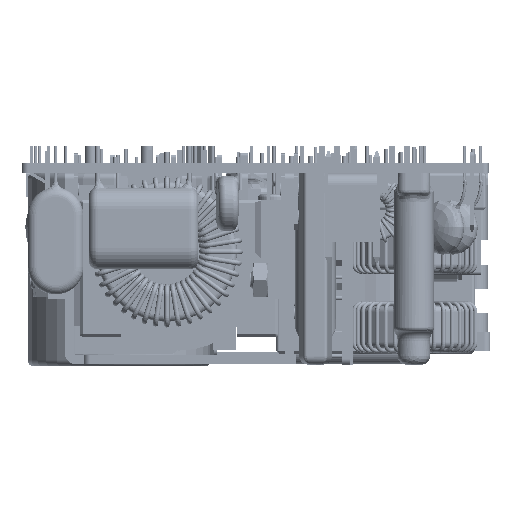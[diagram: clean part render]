
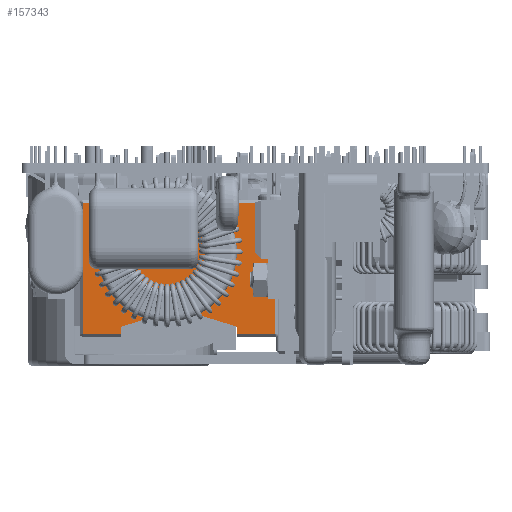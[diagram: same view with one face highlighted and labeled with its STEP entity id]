
A CAD part, left-side view. The second image highlights one B-rep face of the part: STEP entity #157343.
In plain terms, the highlighted planar face has unit normal (-1, 0, 0) as drawn and (0, 0, -1) by its records, which use the part's own axes.
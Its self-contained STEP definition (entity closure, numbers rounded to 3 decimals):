
#156380=DIRECTION('',(-1.,0.,0.));
#156381=VECTOR('',#156380,6.25);
#156382=CARTESIAN_POINT('',(-9.5,10.75,-14.2));
#156383=LINE('',#156382,#156381);
#156387=DIRECTION('',(0.,-1.,0.));
#156388=VECTOR('',#156387,21.5);
#156389=CARTESIAN_POINT('',(-15.75,10.75,-14.2));
#156390=LINE('',#156389,#156388);
#156394=DIRECTION('',(1.,0.,0.));
#156395=VECTOR('',#156394,6.25);
#156396=CARTESIAN_POINT('',(-15.75,-10.75,-14.2));
#156397=LINE('',#156396,#156395);
#156401=DIRECTION('',(0.955,0.296,0.));
#156402=VECTOR('',#156401,6.569);
#156403=CARTESIAN_POINT('',(-9.5,-9.592,-14.2));
#156404=LINE('',#156403,#156402);
#156408=DIRECTION('',(0.495,0.869,0.));
#156409=VECTOR('',#156408,1.465);
#156410=CARTESIAN_POINT('',(-3.225,-7.65,-14.2));
#156411=LINE('',#156410,#156409);
#156415=CARTESIAN_POINT('',(0.,0.,-14.2));
#156416=DIRECTION('',(0.,0.,1.));
#156417=DIRECTION('',(-0.365,-0.931,0.));
#156418=AXIS2_PLACEMENT_3D('',#156415,#156416,#156417);
#156423=DIRECTION('',(0.495,-0.869,0.));
#156424=VECTOR('',#156423,1.465);
#156425=CARTESIAN_POINT('',(2.5,-6.377,-14.2));
#156426=LINE('',#156425,#156424);
#156430=DIRECTION('',(0.955,-0.296,0.));
#156431=VECTOR('',#156430,6.569);
#156432=CARTESIAN_POINT('',(3.225,-7.65,-14.2));
#156433=LINE('',#156432,#156431);
#156437=DIRECTION('',(0.,-1.,0.));
#156438=VECTOR('',#156437,1.158);
#156439=CARTESIAN_POINT('',(9.5,-9.592,-14.2));
#156440=LINE('',#156439,#156438);
#156444=DIRECTION('',(1.,0.,0.));
#156445=VECTOR('',#156444,6.25);
#156446=CARTESIAN_POINT('',(9.5,-10.75,-14.2));
#156447=LINE('',#156446,#156445);
#156451=DIRECTION('',(0.,1.,0.));
#156452=VECTOR('',#156451,21.5);
#156453=CARTESIAN_POINT('',(15.75,-10.75,-14.2));
#156454=LINE('',#156453,#156452);
#156458=DIRECTION('',(-1.,0.,0.));
#156459=VECTOR('',#156458,6.25);
#156460=CARTESIAN_POINT('',(15.75,10.75,-14.2));
#156461=LINE('',#156460,#156459);
#156465=DIRECTION('',(-0.955,-0.296,0.));
#156466=VECTOR('',#156465,6.569);
#156467=CARTESIAN_POINT('',(9.5,9.592,-14.2));
#156468=LINE('',#156467,#156466);
#156472=DIRECTION('',(-0.495,-0.869,0.));
#156473=VECTOR('',#156472,1.465);
#156474=CARTESIAN_POINT('',(3.225,7.65,-14.2));
#156475=LINE('',#156474,#156473);
#156479=CARTESIAN_POINT('',(0.,0.,-14.2));
#156480=DIRECTION('',(0.,0.,1.));
#156481=DIRECTION('',(0.365,0.931,0.));
#156482=AXIS2_PLACEMENT_3D('',#156479,#156480,#156481);
#156487=DIRECTION('',(-0.495,0.869,0.));
#156488=VECTOR('',#156487,1.465);
#156489=CARTESIAN_POINT('',(-2.5,6.377,-14.2));
#156490=LINE('',#156489,#156488);
#156494=DIRECTION('',(-0.955,0.296,0.));
#156495=VECTOR('',#156494,6.569);
#156496=CARTESIAN_POINT('',(-3.225,7.65,-14.2));
#156497=LINE('',#156496,#156495);
#156501=DIRECTION('',(0.,1.,0.));
#156502=VECTOR('',#156501,1.158);
#156503=CARTESIAN_POINT('',(-9.5,9.592,-14.2));
#156504=LINE('',#156503,#156502);
#156624=DIRECTION('',(0.,-1.,0.));
#156625=VECTOR('',#156624,1.158);
#156626=CARTESIAN_POINT('',(-9.5,-9.592,-14.2));
#156627=LINE('',#156626,#156625);
#156865=DIRECTION('',(0.,1.,0.));
#156866=VECTOR('',#156865,1.158);
#156867=CARTESIAN_POINT('',(9.5,9.592,-14.2));
#156868=LINE('',#156867,#156866);
#157160=CARTESIAN_POINT('',(-9.5,10.75,-14.2));
#157161=CARTESIAN_POINT('',(-15.75,10.75,-14.2));
#157162=VERTEX_POINT('',#157160);
#157163=VERTEX_POINT('',#157161);
#157164=CARTESIAN_POINT('',(-15.75,-10.75,-14.2));
#157165=VERTEX_POINT('',#157164);
#157166=CARTESIAN_POINT('',(-9.5,-10.75,-14.2));
#157167=VERTEX_POINT('',#157166);
#157168=CARTESIAN_POINT('',(-9.5,-9.592,-14.2));
#157169=VERTEX_POINT('',#157168);
#157170=CARTESIAN_POINT('',(-3.225,-7.65,-14.2));
#157171=VERTEX_POINT('',#157170);
#157172=CARTESIAN_POINT('',(-2.5,-6.377,-14.2));
#157173=VERTEX_POINT('',#157172);
#157174=CARTESIAN_POINT('',(2.5,-6.377,-14.2));
#157175=VERTEX_POINT('',#157174);
#157176=CARTESIAN_POINT('',(3.225,-7.65,-14.2));
#157177=VERTEX_POINT('',#157176);
#157178=CARTESIAN_POINT('',(9.5,-9.592,-14.2));
#157179=VERTEX_POINT('',#157178);
#157180=CARTESIAN_POINT('',(9.5,-10.75,-14.2));
#157181=VERTEX_POINT('',#157180);
#157182=CARTESIAN_POINT('',(15.75,-10.75,-14.2));
#157183=VERTEX_POINT('',#157182);
#157184=CARTESIAN_POINT('',(15.75,10.75,-14.2));
#157185=VERTEX_POINT('',#157184);
#157186=CARTESIAN_POINT('',(9.5,10.75,-14.2));
#157187=VERTEX_POINT('',#157186);
#157188=CARTESIAN_POINT('',(9.5,9.592,-14.2));
#157189=VERTEX_POINT('',#157188);
#157190=CARTESIAN_POINT('',(3.225,7.65,-14.2));
#157191=VERTEX_POINT('',#157190);
#157192=CARTESIAN_POINT('',(2.5,6.377,-14.2));
#157193=VERTEX_POINT('',#157192);
#157194=CARTESIAN_POINT('',(-2.5,6.377,-14.2));
#157195=VERTEX_POINT('',#157194);
#157196=CARTESIAN_POINT('',(-3.225,7.65,-14.2));
#157197=VERTEX_POINT('',#157196);
#157198=CARTESIAN_POINT('',(-9.5,9.592,-14.2));
#157199=VERTEX_POINT('',#157198);
#157296=CARTESIAN_POINT('',(0.,0.,-14.2));
#157297=DIRECTION('',(0.,0.,1.));
#157298=DIRECTION('',(1.,0.,0.));
#157299=AXIS2_PLACEMENT_3D('',#157296,#157297,#157298);
#157300=PLANE('',#157299);
#157302=ORIENTED_EDGE('',*,*,#157301,.T.);
#157304=ORIENTED_EDGE('',*,*,#157303,.T.);
#157306=ORIENTED_EDGE('',*,*,#157305,.T.);
#157308=ORIENTED_EDGE('',*,*,#157307,.F.);
#157310=ORIENTED_EDGE('',*,*,#157309,.T.);
#157312=ORIENTED_EDGE('',*,*,#157311,.T.);
#157314=ORIENTED_EDGE('',*,*,#157313,.T.);
#157316=ORIENTED_EDGE('',*,*,#157315,.T.);
#157318=ORIENTED_EDGE('',*,*,#157317,.T.);
#157320=ORIENTED_EDGE('',*,*,#157319,.T.);
#157322=ORIENTED_EDGE('',*,*,#157321,.T.);
#157324=ORIENTED_EDGE('',*,*,#157323,.T.);
#157326=ORIENTED_EDGE('',*,*,#157325,.T.);
#157328=ORIENTED_EDGE('',*,*,#157327,.F.);
#157330=ORIENTED_EDGE('',*,*,#157329,.T.);
#157332=ORIENTED_EDGE('',*,*,#157331,.T.);
#157334=ORIENTED_EDGE('',*,*,#157333,.T.);
#157336=ORIENTED_EDGE('',*,*,#157335,.T.);
#157338=ORIENTED_EDGE('',*,*,#157337,.T.);
#157340=ORIENTED_EDGE('',*,*,#157339,.T.);
#157341=EDGE_LOOP('',(#157302,#157304,#157306,#157308,#157310,#157312,#157314,
#157316,#157318,#157320,#157322,#157324,#157326,#157328,#157330,#157332,#157334,
#157336,#157338,#157340));
#157342=FACE_OUTER_BOUND('',#157341,.F.);
#157343=ADVANCED_FACE('',(#157342),#157300,.F.);
#156419=CIRCLE('',#156418,6.85);
#156483=CIRCLE('',#156482,6.85);
#157301=EDGE_CURVE('',#157162,#157163,#156383,.T.);
#157303=EDGE_CURVE('',#157163,#157165,#156390,.T.);
#157305=EDGE_CURVE('',#157165,#157167,#156397,.T.);
#157307=EDGE_CURVE('',#157169,#157167,#156627,.T.);
#157309=EDGE_CURVE('',#157169,#157171,#156404,.T.);
#157311=EDGE_CURVE('',#157171,#157173,#156411,.T.);
#157313=EDGE_CURVE('',#157173,#157175,#156419,.T.);
#157315=EDGE_CURVE('',#157175,#157177,#156426,.T.);
#157317=EDGE_CURVE('',#157177,#157179,#156433,.T.);
#157319=EDGE_CURVE('',#157179,#157181,#156440,.T.);
#157321=EDGE_CURVE('',#157181,#157183,#156447,.T.);
#157323=EDGE_CURVE('',#157183,#157185,#156454,.T.);
#157325=EDGE_CURVE('',#157185,#157187,#156461,.T.);
#157327=EDGE_CURVE('',#157189,#157187,#156868,.T.);
#157329=EDGE_CURVE('',#157189,#157191,#156468,.T.);
#157331=EDGE_CURVE('',#157191,#157193,#156475,.T.);
#157333=EDGE_CURVE('',#157193,#157195,#156483,.T.);
#157335=EDGE_CURVE('',#157195,#157197,#156490,.T.);
#157337=EDGE_CURVE('',#157197,#157199,#156497,.T.);
#157339=EDGE_CURVE('',#157199,#157162,#156504,.T.);
